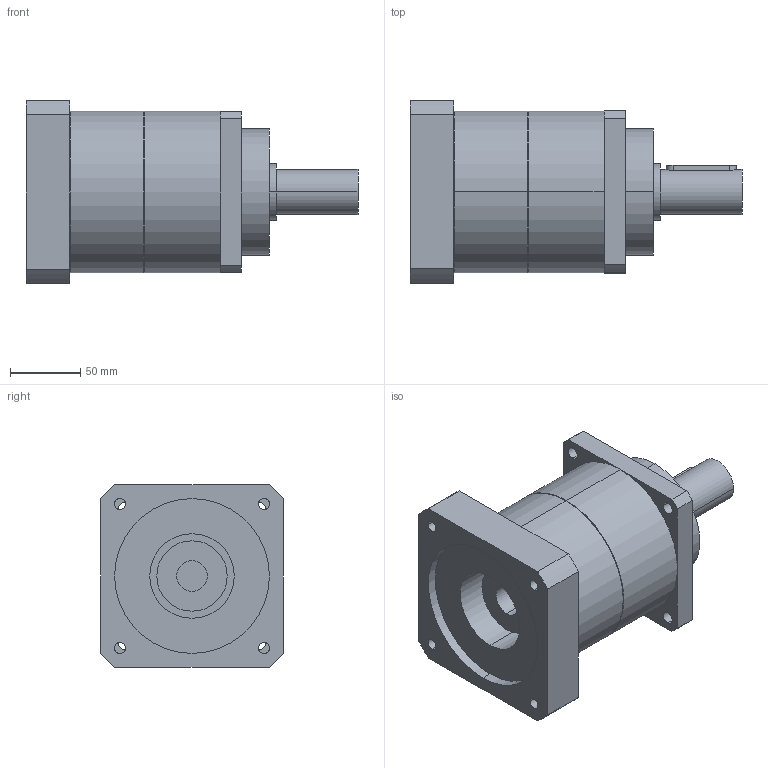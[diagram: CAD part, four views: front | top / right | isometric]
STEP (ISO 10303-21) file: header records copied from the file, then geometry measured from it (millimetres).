
FILE_DESCRIPTION(('CoCreate Modeling STEP Export'),'2;1');
FILE_NAME('GPT120_ig-3-4-5-7-10_32_B5A_22_P11.stp','2015-02-04T16:59:26',(''),(''),'CoCreate Modeling STEP processor for AP214 (Solid Model)','CoCreate Modeling 16.00C 25-Feb-2009 (C) Parametric Technology GmbH','');
FILE_SCHEMA(('AUTOMOTIVE_DESIGN { 1 0 10303 214 1 1 1 1 }'));
Length unit declared in the file: millimetre
Products named in the file (2): GPT120_ig-3-4-5-7-10_32_B5A_22_P11
Assembly tree (1 placements, depth 2):
  GPT120_ig-3-4-5-7-10_32_B5A_22_P11
    GPT120_ig-3-4-5-7-10_32_B5A_22_P11
Bounding box: 236 x 130 x 130 mm (x, y, z)
Volume: 1853608.1 mm3; surface area: 129448.8 mm2
Topology: 1 solids, 1 shells, 77 faces, 204 edges, 139 vertices
Faces by surface type: cylinder 46, plane 27, cone 4
Entity records: 2568 total; most frequent: CARTESIAN_POINT 759, ORIENTED_EDGE 408, DIRECTION 320, EDGE_CURVE 204, VERTEX_POINT 139, AXIS2_PLACEMENT_3D 118, EDGE_LOOP 103, VECTOR 84
